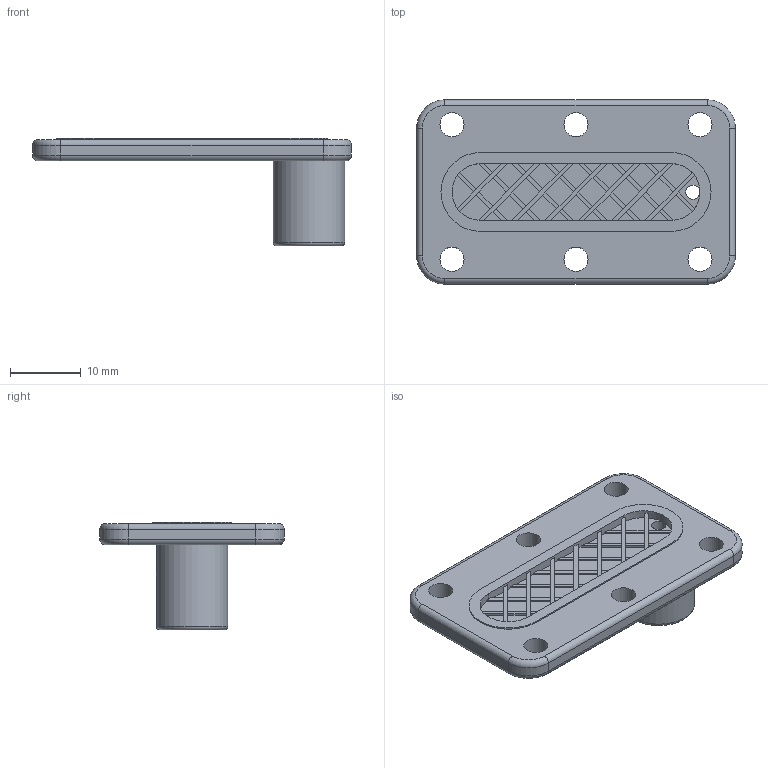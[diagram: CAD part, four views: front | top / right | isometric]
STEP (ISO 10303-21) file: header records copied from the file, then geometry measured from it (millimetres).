
FILE_DESCRIPTION(/* description */ (''),/* implementation_level */ '2;1');
FILE_NAME(/* name */ 'V:\Flow\Inventor\PEEK\Membran Separator\Membran Separator_1 - PEEK.stp',/* time_stamp */ '2019-12-20T10:11:58+01:00',/* author */ ('JN'),/* organization */ (''),/* preprocessor_version */ 'ST-DEVELOPER v17',/* originating_system */ 'Autodesk Inventor 2018',/* authorisation */ '');
FILE_SCHEMA (('AUTOMOTIVE_DESIGN { 1 0 10303 214 3 1 1 }'));
Length unit declared in the file: millimetre
Products named in the file (3): Baugruppe1; Luer - 10-32  Adapter; Membran Separator
Assembly tree (2 placements, depth 2):
  Baugruppe1
    Luer - 10-32  Adapter
    Membran Separator
Bounding box: 45 x 26 x 15.2 mm (x, y, z)
Volume: 3856.8 mm3; surface area: 3625.5 mm2
Topology: 2 solids, 2 shells, 108 faces, 302 edges, 198 vertices
Faces by surface type: plane 72, cylinder 26, torus 9, cone 1
Full cylindrical faces by diameter (mm): 2 x1, 2.8 x1, 3.4 x6, 4.4 x1, 10.08 x1
Entity records: 3640 total; most frequent: DIRECTION 619, CARTESIAN_POINT 613, ORIENTED_EDGE 604, EDGE_CURVE 302, LINE 211, VECTOR 211, AXIS2_PLACEMENT_3D 204, VERTEX_POINT 198
